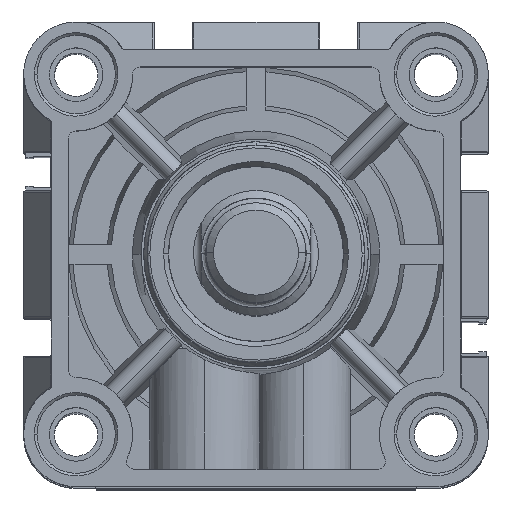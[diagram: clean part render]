
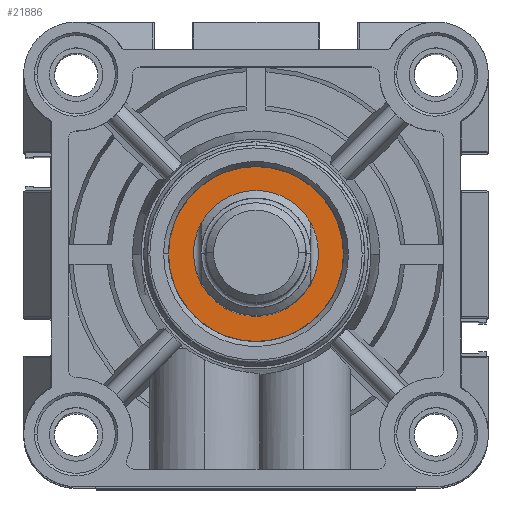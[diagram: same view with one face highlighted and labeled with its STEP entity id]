
A CAD part, top view. The second image highlights one B-rep face of the part: STEP entity #21886.
In plain terms, the highlighted planar face has unit normal (0, 0, 1).
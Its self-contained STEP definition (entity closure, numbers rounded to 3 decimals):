
#419 = CARTESIAN_POINT ( 'NONE',  ( 28.5, 41., 69. ) ) ;
#605 = AXIS2_PLACEMENT_3D ( 'NONE', #3421, #3490, #3555 ) ;
#821 = EDGE_LOOP ( 'NONE', ( #10292, #2074 ) ) ;
#1051 = CIRCLE ( 'NONE', #4315, 12.5 ) ;
#1483 = EDGE_CURVE ( 'NONE', #3915, #21074, #11285, .T. ) ;
#1816 = EDGE_CURVE ( 'NONE', #21074, #3915, #8383, .T. ) ;
#2074 = ORIENTED_EDGE ( 'NONE', *, *, #12783, .F. ) ;
#2770 = PLANE ( 'NONE',  #3387 ) ;
#2862 = CARTESIAN_POINT ( 'NONE',  ( 41., 41., 69. ) ) ;
#2908 = DIRECTION ( 'NONE',  ( 0., 0., 1. ) ) ;
#2943 = DIRECTION ( 'NONE',  ( 1., 0., 0. ) ) ;
#3098 = CARTESIAN_POINT ( 'NONE',  ( 58.488, 41., 69. ) ) ;
#3261 = ORIENTED_EDGE ( 'NONE', *, *, #1816, .T. ) ;
#3387 = AXIS2_PLACEMENT_3D ( 'NONE', #7831, #8187, #8805 ) ;
#3421 = CARTESIAN_POINT ( 'NONE',  ( 41., 41., 69. ) ) ;
#3490 = DIRECTION ( 'NONE',  ( 0., 0., 1. ) ) ;
#3555 = DIRECTION ( 'NONE',  ( 1., 0., 0. ) ) ;
#3915 = VERTEX_POINT ( 'NONE', #28734 ) ;
#4315 = AXIS2_PLACEMENT_3D ( 'NONE', #4482, #4548, #4580 ) ;
#4482 = CARTESIAN_POINT ( 'NONE',  ( 41., 41., 69. ) ) ;
#4548 = DIRECTION ( 'NONE',  ( 0., 0., 1. ) ) ;
#4580 = DIRECTION ( 'NONE',  ( 1., 0., 0. ) ) ;
#5765 = EDGE_CURVE ( 'NONE', #14317, #14052, #1051, .T. ) ;
#7610 = AXIS2_PLACEMENT_3D ( 'NONE', #22340, #9923, #24241 ) ;
#7831 = CARTESIAN_POINT ( 'NONE',  ( 41., 41., 69. ) ) ;
#8187 = DIRECTION ( 'NONE',  ( 0., 0., 1. ) ) ;
#8383 = CIRCLE ( 'NONE', #23031, 17.488 ) ;
#8805 = DIRECTION ( 'NONE',  ( 1., 0., 0. ) ) ;
#9923 = DIRECTION ( 'NONE',  ( 0., 0., 1. ) ) ;
#10292 = ORIENTED_EDGE ( 'NONE', *, *, #5765, .F. ) ;
#10602 = CIRCLE ( 'NONE', #605, 12.5 ) ;
#10646 = CARTESIAN_POINT ( 'NONE',  ( 53.5, 41., 69. ) ) ;
#11285 = CIRCLE ( 'NONE', #7610, 17.488 ) ;
#11433 = FACE_OUTER_BOUND ( 'NONE', #15987, .T. ) ;
#12783 = EDGE_CURVE ( 'NONE', #14052, #14317, #10602, .T. ) ;
#14052 = VERTEX_POINT ( 'NONE', #419 ) ;
#14317 = VERTEX_POINT ( 'NONE', #10646 ) ;
#15987 = EDGE_LOOP ( 'NONE', ( #3261, #27453 ) ) ;
#21074 = VERTEX_POINT ( 'NONE', #3098 ) ;
#21886 = ADVANCED_FACE ( 'NONE', ( #22884, #11433 ), #2770, .T. ) ;
#22340 = CARTESIAN_POINT ( 'NONE',  ( 41., 41., 69. ) ) ;
#22884 = FACE_BOUND ( 'NONE', #821, .T. ) ;
#23031 = AXIS2_PLACEMENT_3D ( 'NONE', #2862, #2908, #2943 ) ;
#24241 = DIRECTION ( 'NONE',  ( 1., 0., 0. ) ) ;
#27453 = ORIENTED_EDGE ( 'NONE', *, *, #1483, .T. ) ;
#28734 = CARTESIAN_POINT ( 'NONE',  ( 23.512, 41., 69. ) ) ;
